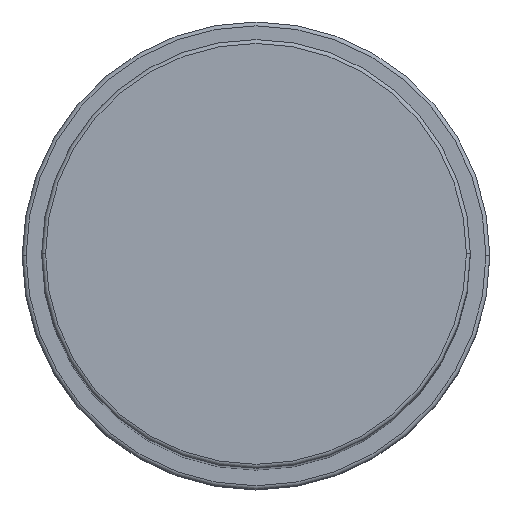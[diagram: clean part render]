
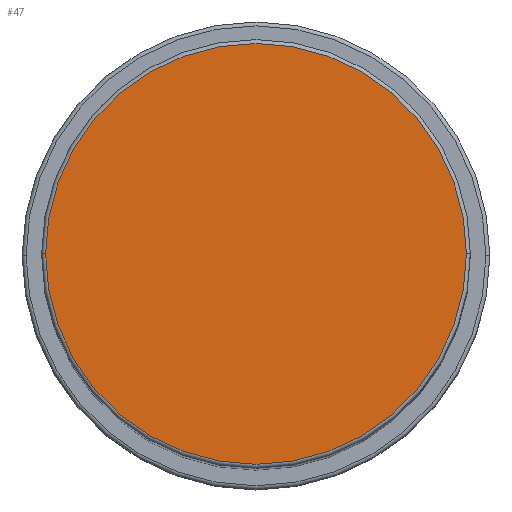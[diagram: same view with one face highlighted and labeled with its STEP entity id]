
A CAD part, top view. The second image highlights one B-rep face of the part: STEP entity #47.
In plain terms, the highlighted planar face has unit normal (0, 0, 1).
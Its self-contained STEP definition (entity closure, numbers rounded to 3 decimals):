
#1 = EDGE_CURVE ( 'NONE', #1220, #1389, #1275, .T. ) ;
#47 = ADVANCED_FACE ( 'NONE', ( #1327 ), #594, .T. ) ;
#224 = CARTESIAN_POINT ( 'NONE',  ( -27., 0., 153. ) ) ;
#443 = ORIENTED_EDGE ( 'NONE', *, *, #1, .T. ) ;
#578 = CARTESIAN_POINT ( 'NONE',  ( 0., 0., 153. ) ) ;
#594 = PLANE ( 'NONE',  #643 ) ;
#643 = AXIS2_PLACEMENT_3D ( 'NONE', #1204, #1670, #744 ) ;
#716 = DIRECTION ( 'NONE',  ( 1., 0., 0. ) ) ;
#720 = DIRECTION ( 'NONE',  ( 0., 0., 1. ) ) ;
#739 = CIRCLE ( 'NONE', #1973, 27. ) ;
#744 = DIRECTION ( 'NONE',  ( 1., 0., 0. ) ) ;
#877 = CARTESIAN_POINT ( 'NONE',  ( 27., 0., 153. ) ) ;
#879 = DIRECTION ( 'NONE',  ( 0., 0., 1. ) ) ;
#938 = EDGE_CURVE ( 'NONE', #1389, #1220, #739, .T. ) ;
#1032 = CARTESIAN_POINT ( 'NONE',  ( 0., 0., 153. ) ) ;
#1033 = ORIENTED_EDGE ( 'NONE', *, *, #938, .T. ) ;
#1204 = CARTESIAN_POINT ( 'NONE',  ( 0., 0., 153. ) ) ;
#1220 = VERTEX_POINT ( 'NONE', #877 ) ;
#1275 = CIRCLE ( 'NONE', #1489, 27. ) ;
#1327 = FACE_OUTER_BOUND ( 'NONE', #1978, .T. ) ;
#1389 = VERTEX_POINT ( 'NONE', #224 ) ;
#1489 = AXIS2_PLACEMENT_3D ( 'NONE', #578, #720, #1828 ) ;
#1670 = DIRECTION ( 'NONE',  ( 0., 0., 1. ) ) ;
#1828 = DIRECTION ( 'NONE',  ( 1., 0., 0. ) ) ;
#1973 = AXIS2_PLACEMENT_3D ( 'NONE', #1032, #879, #716 ) ;
#1978 = EDGE_LOOP ( 'NONE', ( #443, #1033 ) ) ;
